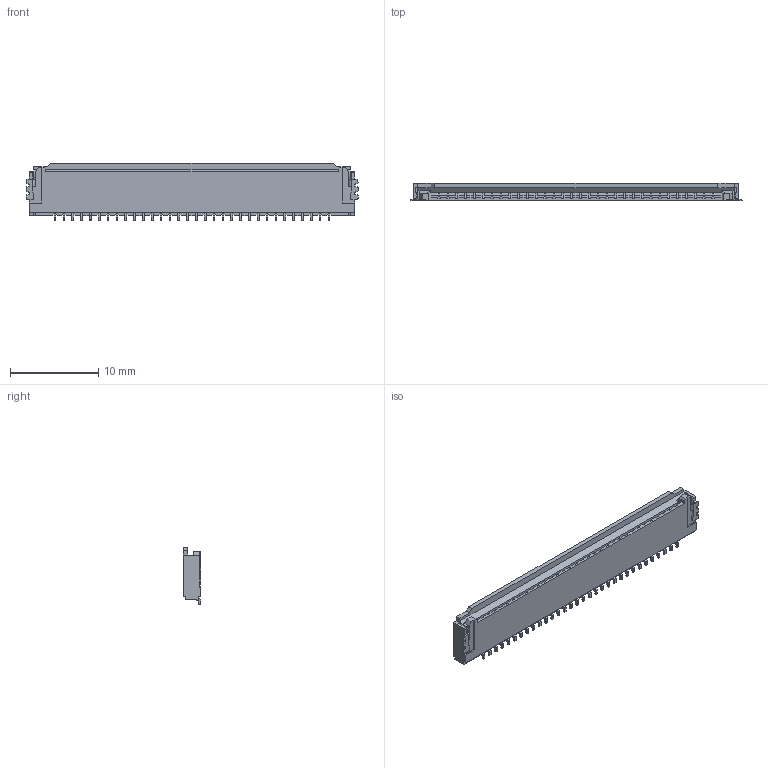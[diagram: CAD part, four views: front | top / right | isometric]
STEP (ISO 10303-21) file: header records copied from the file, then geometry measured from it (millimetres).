
FILE_DESCRIPTION((''),'2;1');
FILE_NAME('ASM0002_ASM','2013-09-26T',('12241758'),(''),'PRO/ENGINEER BY PARAMETRIC TECHNOLOGY CORPORATION, 2009360','PRO/ENGINEER BY PARAMETRIC TECHNOLOGY CORPORATION, 2009360','');
FILE_SCHEMA(('CONFIG_CONTROL_DESIGN'));
Products named in the file (1): ASM0002_ASM
Bounding box: 37.58 x 2.01 x 6.5 mm (x, y, z)
Volume: 286.6 mm3; surface area: 1102.6 mm2
Topology: 1 solids, 1 shells, 2434 faces, 7518 edges, 4983 vertices
Faces by surface type: plane 1829, cylinder 605
Entity records: 84401 total; most frequent: CARTESIAN_POINT 16700, ORIENTED_EDGE 15036, DIRECTION 13156, EDGE_CURVE 7518, VECTOR 5872, LINE 5872, VERTEX_POINT 4983, AXIS2_PLACEMENT_3D 3642
